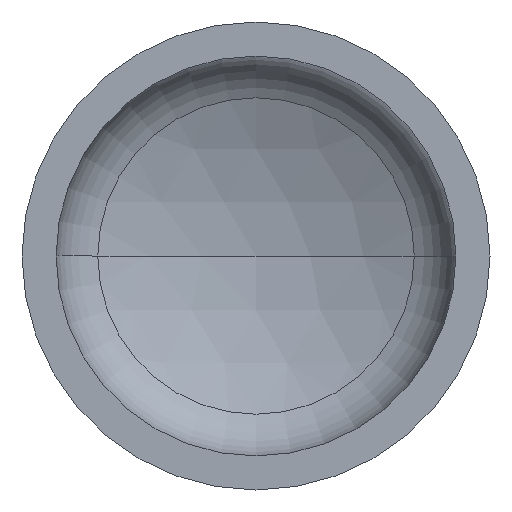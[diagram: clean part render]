
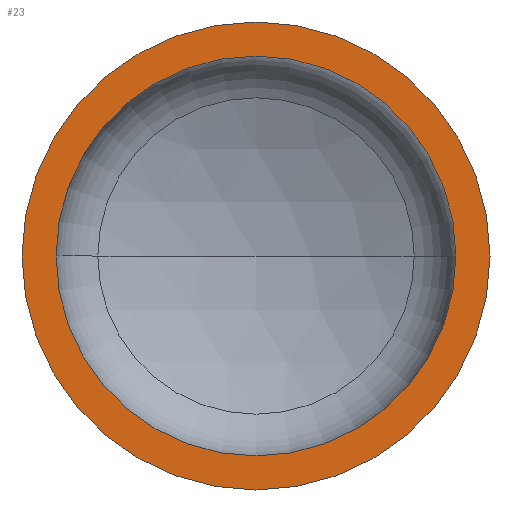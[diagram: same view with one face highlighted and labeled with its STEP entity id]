
A CAD part, front view. The second image highlights one B-rep face of the part: STEP entity #23.
In plain terms, the highlighted planar face has unit normal (0, -1, 0).
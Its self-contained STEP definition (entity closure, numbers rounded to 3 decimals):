
#3 = AXIS2_PLACEMENT_3D ( 'NONE', #89, #300, #402 ) ;
#23 = ADVANCED_FACE ( 'NONE', ( #74, #385 ), #210, .F. ) ;
#37 = AXIS2_PLACEMENT_3D ( 'NONE', #309, #321, #316 ) ;
#39 = AXIS2_PLACEMENT_3D ( 'NONE', #150, #164, #165 ) ;
#42 = AXIS2_PLACEMENT_3D ( 'NONE', #261, #257, #263 ) ;
#45 = CARTESIAN_POINT ( 'NONE',  ( 0., 0., 0. ) ) ;
#52 = EDGE_CURVE ( 'NONE', #329, #170, #156, .T. ) ;
#54 = EDGE_CURVE ( 'NONE', #94, #172, #297, .T. ) ;
#74 = FACE_BOUND ( 'NONE', #137, .T. ) ;
#89 = CARTESIAN_POINT ( 'NONE',  ( 0., 0., 0. ) ) ;
#94 = VERTEX_POINT ( 'NONE', #152 ) ;
#102 = DIRECTION ( 'NONE',  ( 0., -1., 0. ) ) ;
#103 = DIRECTION ( 'NONE',  ( 1., 0., 0. ) ) ;
#115 = CARTESIAN_POINT ( 'NONE',  ( -550., 0., 0. ) ) ;
#133 = ORIENTED_EDGE ( 'NONE', *, *, #405, .F. ) ;
#137 = EDGE_LOOP ( 'NONE', ( #145, #133 ) ) ;
#145 = ORIENTED_EDGE ( 'NONE', *, *, #54, .F. ) ;
#150 = CARTESIAN_POINT ( 'NONE',  ( 0., 0., 0. ) ) ;
#152 = CARTESIAN_POINT ( 'NONE',  ( 470., 0., 0. ) ) ;
#156 = CIRCLE ( 'NONE', #39, 550. ) ;
#164 = DIRECTION ( 'NONE',  ( 0., -1., 0. ) ) ;
#165 = DIRECTION ( 'NONE',  ( 1., 0., 0. ) ) ;
#170 = VERTEX_POINT ( 'NONE', #253 ) ;
#172 = VERTEX_POINT ( 'NONE', #252 ) ;
#195 = ORIENTED_EDGE ( 'NONE', *, *, #52, .T. ) ;
#210 = PLANE ( 'NONE',  #42 ) ;
#230 = AXIS2_PLACEMENT_3D ( 'NONE', #45, #102, #103 ) ;
#236 = CIRCLE ( 'NONE', #3, 550. ) ;
#252 = CARTESIAN_POINT ( 'NONE',  ( -470., 0., 0. ) ) ;
#253 = CARTESIAN_POINT ( 'NONE',  ( 550., 0., 0. ) ) ;
#257 = DIRECTION ( 'NONE',  ( 0., 1., 0. ) ) ;
#261 = CARTESIAN_POINT ( 'NONE',  ( -550., 0., 0. ) ) ;
#263 = DIRECTION ( 'NONE',  ( -1., 0., 0. ) ) ;
#297 = CIRCLE ( 'NONE', #37, 470. ) ;
#300 = DIRECTION ( 'NONE',  ( 0., -1., 0. ) ) ;
#301 = CIRCLE ( 'NONE', #230, 470. ) ;
#309 = CARTESIAN_POINT ( 'NONE',  ( 0., 0., 0. ) ) ;
#316 = DIRECTION ( 'NONE',  ( 1., 0., 0. ) ) ;
#321 = DIRECTION ( 'NONE',  ( 0., -1., 0. ) ) ;
#329 = VERTEX_POINT ( 'NONE', #115 ) ;
#332 = EDGE_LOOP ( 'NONE', ( #370, #195 ) ) ;
#370 = ORIENTED_EDGE ( 'NONE', *, *, #379, .T. ) ;
#379 = EDGE_CURVE ( 'NONE', #170, #329, #236, .T. ) ;
#385 = FACE_OUTER_BOUND ( 'NONE', #332, .T. ) ;
#402 = DIRECTION ( 'NONE',  ( 1., 0., 0. ) ) ;
#405 = EDGE_CURVE ( 'NONE', #172, #94, #301, .T. ) ;
